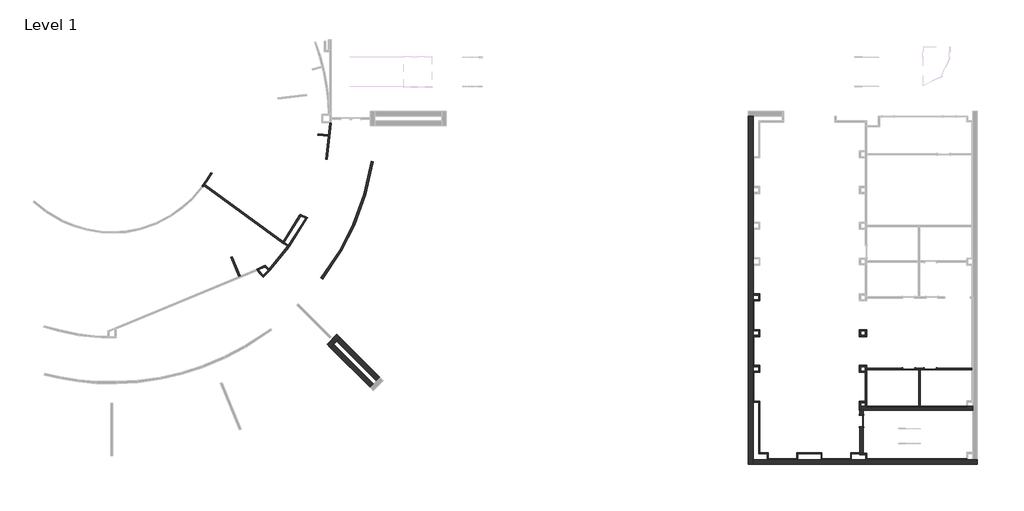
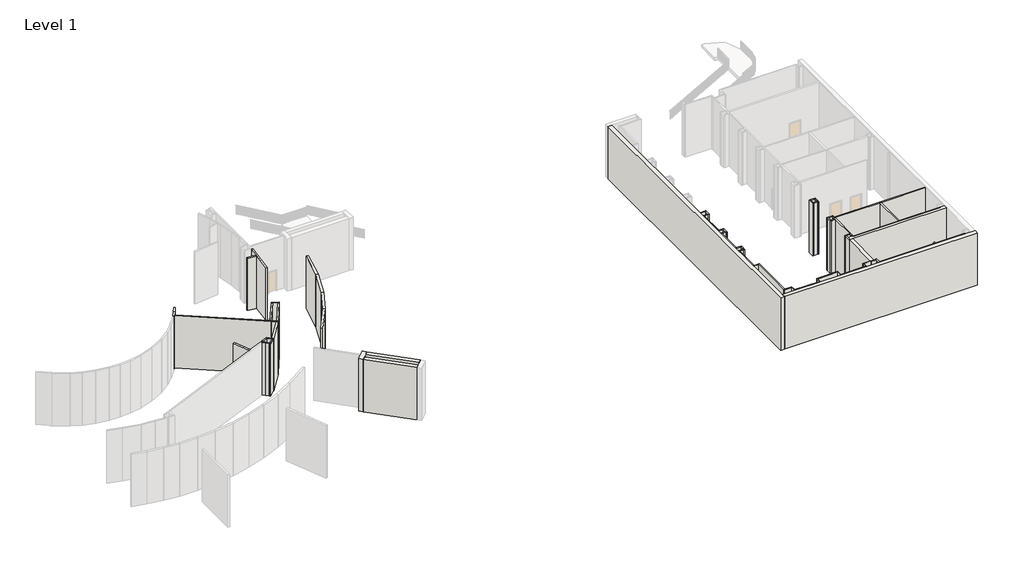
# One storey, part 2 of 10: 67 walls, 3 doors.
"""IFC4 building model written with IfcOpenShell, lengths in millimetres."""

from ifc_helpers import new_model, si_unit, origin, origin_with_axes, place, context, project, spatial, polyline, outline, extrude, faceted_brep, transform, mapped, element, save
from components import door_f5ce0651, door_a2bde941, door_55d8558a

model = new_model("IFC4")

# Units and contexts
model_context = context("Model", 3, world=origin())
ifc_project = project(units=[si_unit("LENGTHUNIT", "METRE", prefix="MILLI")], contexts=[model_context])

# Site, building, storey
site = spatial("IfcSite", under=ifc_project)
building = spatial("IfcBuilding", under=site)
storey = spatial("IfcBuildingStorey", under=building, Name="Level 1", Elevation=0.0)

# Doors
placement = place(None, origin())
door_shape = door_f5ce0651(model_context)
element("IfcDoor", 1, ObjectType="Single-Flush : 36\" x 84\"", at=placement, inside=storey, context=model_context, shape_type="MappedRepresentation", body=[
    mapped(door_shape, transform((92033.6411716, -20234.5763082, 0.0), x_axis=(1.0, 0.0, 0.0), y_axis=(0.0, 1.0, 0.0), z_axis=(0.0, 0.0, 1.0))),
])
door_2_shape = door_a2bde941(model_context)
element("IfcDoor", 2, ObjectType="Single-Flush : 36\" x 84\"", at=placement, inside=storey, context=model_context, shape_type="MappedRepresentation", body=[
    mapped(door_2_shape, transform((88010.1224216, -24669.4798082, 0.0), x_axis=(0.0, 1.0, 0.0), y_axis=(-1.0, 0.0, 0.0), z_axis=(0.0, 0.0, 1.0))),
])
door_3_shape = door_55d8558a(model_context)
element("IfcDoor", 3, ObjectType="Single-Flush : 36\" x 84\"", at=placement, inside=storey, context=model_context, shape_type="MappedRepresentation", body=[
    mapped(door_3_shape, transform((93862.4411716, -20234.5763082, 0.0), x_axis=(-1.0, 0.0, 0.0), y_axis=(0.0, -1.0, 0.0), z_axis=(0.0, 0.0, 1.0))),
])

# Walls
element("IfcWall", 4, ObjectType="N2A/B", at=placement, inside=storey, context=model_context, shape_type="Brep", body=[
    faceted_brep([(93354.4411716, -20172.6638082, 2133.6), (93354.4411716, -20172.6638082, 0.0), (92541.6411716, -20172.6638082, 0.0), (92541.6411716, -20172.6638082, 2133.6), (91525.6411716, -20172.6638082, 2133.6), (91525.6411716, -20172.6638082, 0.0), (88440.3349216, -20172.6638082, 0.0), (88440.3349216, -20172.6638082, 5486.4), (97419.2349216, -20172.6638082, 5486.4), (97419.2349216, -20172.6638082, 0.0), (94370.4411716, -20172.6638082, 0.0), (94370.4411716, -20172.6638082, 2133.6), (92541.6411716, -20296.4888082, 0.0), (92886.1286716, -20296.4888082, 0.0), (93009.9536716, -20296.4888082, 0.0), (93354.4411716, -20296.4888082, 0.0), (93354.4411716, -20296.4888082, 2133.6), (94370.4411716, -20296.4888082, 2133.6), (94370.4411716, -20296.4888082, 0.0), (97419.2349216, -20296.4888082, 0.0), (97419.2349216, -20296.4888082, 5486.4), (93009.9536716, -20296.4888082, 5486.4), (92886.1286716, -20296.4888082, 5486.4), (88448.2724216, -20296.4888082, 5486.4), (88440.3349216, -20296.4888082, 5486.4), (88440.3349216, -20296.4888082, 0.0), (88448.2724216, -20296.4888082, 0.0), (91525.6411716, -20296.4888082, 0.0), (91525.6411716, -20296.4888082, 2133.6), (92541.6411716, -20296.4888082, 2133.6)], [[[0, 1, 2, 3, 4, 5, 6, 7, 8, 9, 10, 11]], [[12, 13, 14, 15, 16, 17, 18, 19, 20, 21, 22, 23, 24, 25, 26, 27, 28, 29]], [[2, 1, 15, 14, 13, 12]], [[27, 26, 25, 6, 5]], [[10, 9, 19, 18]], [[8, 7, 24, 23, 22, 21, 20]], [[7, 6, 25, 24]], [[9, 8, 20, 19]], [[3, 2, 12, 29]], [[4, 3, 29, 28]], [[5, 4, 28, 27]], [[16, 15, 1, 0]], [[17, 16, 0, 11]], [[18, 17, 11, 10]]]),
])
element("IfcWall", 5, ObjectType="N2A/B", at=placement, inside=storey, context=model_context, shape_type="Brep", body=[
    faceted_brep([(88324.4474216, -20296.4888082, 0.0), (88324.4474216, -20431.4263082, 0.0), (88324.4474216, -20539.3763082, 0.0), (88324.4474216, -22999.2393082, 0.0), (88324.4474216, -23107.1893082, 0.0), (88324.4474216, -23421.7048082, 0.0), (88324.4474216, -23421.7048082, 5486.4), (88324.4474216, -23107.1893082, 5486.4), (88324.4474216, -22999.2393082, 5486.4), (88324.4474216, -20539.3763082, 5486.4), (88324.4474216, -20431.4263082, 5486.4), (88324.4474216, -20296.4888082, 5486.4), (88448.2724216, -20296.4888082, 0.0), (88448.2724216, -20296.4888082, 5486.4), (88448.2724216, -23421.7048082, 5486.4), (88448.2724216, -23421.7048082, 0.0), (88332.3849216, -20296.4888082, 0.0), (88440.3349216, -20296.4888082, 0.0), (88440.3349216, -20296.4888082, 5486.4), (88332.3849216, -20296.4888082, 5486.4)], [[[0, 1, 2, 3, 4, 5, 6, 7, 8, 9, 10, 11]], [[12, 13, 14, 15]], [[5, 4, 3, 2, 1, 0, 16, 17, 12, 15]], [[11, 10, 9, 8, 7, 6, 14, 13, 18, 19]], [[0, 11, 19, 18, 13, 12, 17, 16]], [[6, 5, 15, 14]]]),
])
element("IfcWall", 6, ObjectType="N2A/B", at=placement, inside=storey, context=model_context, shape_type="SweptSolid", body=[
    extrude(outline(polyline([(92886.1286716, -23421.7048082), (92886.1286716, -20296.4888082), (93009.9536716, -20296.4888082), (93009.9536716, -23421.7048082), (92886.1286716, -23421.7048082)])), origin_with_axes(), (0.0, 0.0, 1.0), 5486.4),
])
element("IfcWall", 7, ObjectType="N3A/B", at=placement, inside=storey, context=model_context, shape_type="SweptSolid", body=[
    extrude(outline(polyline([(39228.9428686, -9900.87897), (37654.6102671, -11845.017823), (37533.7057841, -11747.1113031), (39108.0383856, -9802.9724501), (39228.9428686, -9900.87897)])), origin_with_axes(), (0.0, 0.0, 1.0), 5486.4),
])
element("IfcWall", 8, ObjectType="F1A", at=placement, inside=storey, context=model_context, shape_type="SweptSolid", body=[
    extrude(outline(polyline([(88448.2724216, -23436.2463082), (96960.4474216, -23436.2463082), (96960.4474216, -23493.3963082), (88448.2724216, -23493.3963082), (88448.2724216, -23436.2463082)])), origin_with_axes(), (0.0, 0.0, 1.0), 5486.4),
])
element("IfcWall", 9, ObjectType="F1A", at=placement, inside=storey, context=model_context, shape_type="Brep", body=[
    faceted_brep([(87843.4349216, -27394.2013082, 0.0), (87078.2599216, -27394.2013082, 0.0), (87078.2599216, -27394.2013082, 5486.4), (87843.4349216, -27394.2013082, 5486.4), (87843.4349216, -27451.3513082, 0.0), (87843.4349216, -27451.3513082, 5486.4), (87135.4099216, -27451.3513082, 5486.4), (87078.2599216, -27451.3513082, 5486.4), (87078.2599216, -27451.3513082, 0.0), (87135.4099216, -27451.3513082, 0.0), (87843.4349216, -27419.6013082, 0.0), (87843.4349216, -27419.6013082, 5486.4)], [[[0, 1, 2, 3]], [[4, 5, 6, 7, 8, 9]], [[1, 0, 10, 4, 9, 8]], [[3, 2, 7, 6, 5, 11]], [[2, 1, 8, 7]], [[0, 3, 11, 5, 4, 10]]]),
])
element("IfcWall", 10, ObjectType="F1A", at=placement, inside=storey, context=model_context, shape_type="Brep", body=[
    faceted_brep([(87078.2599216, -27451.3513082, 0.0), (87078.2599216, -27892.6763082, 0.0), (87078.2599216, -27949.8263082, 0.0), (87078.2599216, -27949.8263082, 5486.4), (87078.2599216, -27892.6763082, 5486.4), (87078.2599216, -27451.3513082, 5486.4), (87135.4099216, -27451.3513082, 0.0), (87135.4099216, -27451.3513082, 5486.4), (87135.4099216, -27949.8263082, 5486.4), (87135.4099216, -27949.8263082, 0.0)], [[[0, 1, 2, 3, 4, 5]], [[6, 7, 8, 9]], [[2, 1, 0, 6, 9]], [[5, 4, 3, 8, 7]], [[3, 2, 9, 8]], [[0, 5, 7, 6]]]),
])
element("IfcWall", 11, ObjectType="F1A", at=placement, inside=storey, context=model_context, shape_type="Brep", body=[
    faceted_brep([(87078.2599216, -27892.6763082, 0.0), (84620.8099216, -27892.6763082, 0.0), (84563.6599216, -27892.6763082, 0.0), (84563.6599216, -27892.6763082, 5486.4), (84620.8099216, -27892.6763082, 5486.4), (87078.2599216, -27892.6763082, 5486.4), (87078.2599216, -27949.8263082, 0.0), (87078.2599216, -27949.8263082, 5486.4), (84563.6599216, -27949.8263082, 5486.4), (84563.6599216, -27949.8263082, 0.0)], [[[0, 1, 2, 3, 4, 5]], [[6, 7, 8, 9]], [[2, 1, 0, 6, 9]], [[5, 4, 3, 8, 7]], [[3, 2, 9, 8]], [[0, 5, 7, 6]]]),
])
element("IfcWall", 12, ObjectType="F1A", at=placement, inside=storey, context=model_context, shape_type="Brep", body=[
    faceted_brep([(84620.8099216, -27892.6763082, 0.0), (84620.8099216, -27394.2013082, 0.0), (84620.8099216, -27394.2013082, 5486.4), (84620.8099216, -27892.6763082, 5486.4), (84563.6599216, -27892.6763082, 0.0), (84563.6599216, -27892.6763082, 5486.4), (84563.6599216, -27451.3513082, 5486.4), (84563.6599216, -27394.2013082, 5486.4), (84563.6599216, -27394.2013082, 0.0), (84563.6599216, -27451.3513082, 0.0)], [[[0, 1, 2, 3]], [[4, 5, 6, 7, 8, 9]], [[1, 0, 4, 9, 8]], [[3, 2, 7, 6, 5]], [[2, 1, 8, 7]], [[0, 3, 5, 4]]]),
])
element("IfcWall", 13, ObjectType="F1A", at=placement, inside=storey, context=model_context, shape_type="Brep", body=[
    faceted_brep([(84563.6599216, -27394.2013082, 0.0), (82506.2599216, -27394.2013082, 0.0), (82506.2599216, -27394.2013082, 5486.4), (84563.6599216, -27394.2013082, 5486.4), (84563.6599216, -27451.3513082, 0.0), (84563.6599216, -27451.3513082, 5486.4), (82563.4099216, -27451.3513082, 5486.4), (82506.2599216, -27451.3513082, 5486.4), (82506.2599216, -27451.3513082, 0.0), (82563.4099216, -27451.3513082, 0.0)], [[[0, 1, 2, 3]], [[4, 5, 6, 7, 8, 9]], [[1, 0, 4, 9, 8]], [[3, 2, 7, 6, 5]], [[2, 1, 8, 7]], [[0, 3, 5, 4]]]),
])
element("IfcWall", 14, ObjectType="F1A", at=placement, inside=storey, context=model_context, shape_type="Brep", body=[
    faceted_brep([(82506.2599216, -27451.3513082, 0.0), (82506.2599216, -27892.6763082, 0.0), (82506.2599216, -27949.8263082, 0.0), (82506.2599216, -27949.8263082, 5486.4), (82506.2599216, -27892.6763082, 5486.4), (82506.2599216, -27451.3513082, 5486.4), (82563.4099216, -27451.3513082, 0.0), (82563.4099216, -27451.3513082, 5486.4), (82563.4099216, -27949.8263082, 5486.4), (82563.4099216, -27949.8263082, 0.0)], [[[0, 1, 2, 3, 4, 5]], [[6, 7, 8, 9]], [[2, 1, 0, 6, 9]], [[5, 4, 3, 8, 7]], [[3, 2, 9, 8]], [[0, 5, 7, 6]]]),
])
element("IfcWall", 15, ObjectType="F1A", at=placement, inside=storey, context=model_context, shape_type="SweptSolid", body=[
    extrude(outline(polyline([(80048.8099216, -27892.6763082), (82506.2599216, -27892.6763082), (82506.2599216, -27949.8263082), (80048.8099216, -27949.8263082), (80048.8099216, -27892.6763082)])), origin_with_axes(), (0.0, 0.0, 1.0), 5486.4),
])
element("IfcWall", 16, ObjectType="F1A", at=placement, inside=storey, context=model_context, shape_type="Brep", body=[
    faceted_brep([(80048.8099216, -27949.8263082, 0.0), (80048.8099216, -27892.6763082, 0.0), (80048.8099216, -27394.2013082, 0.0), (80048.8099216, -27394.2013082, 5486.4), (80048.8099216, -27892.6763082, 5486.4), (80048.8099216, -27949.8263082, 5486.4), (79991.6599216, -27949.8263082, 0.0), (79991.6599216, -27949.8263082, 5486.4), (79991.6599216, -27451.3513082, 5486.4), (79991.6599216, -27394.2013082, 5486.4), (79991.6599216, -27394.2013082, 0.0), (79991.6599216, -27451.3513082, 0.0)], [[[0, 1, 2, 3, 4, 5]], [[6, 7, 8, 9, 10, 11]], [[2, 1, 0, 6, 11, 10]], [[5, 4, 3, 9, 8, 7]], [[3, 2, 10, 9]], [[0, 5, 7, 6]]]),
])
element("IfcWall", 17, ObjectType="F1A", at=placement, inside=storey, context=model_context, shape_type="Brep", body=[
    faceted_brep([(79991.6599216, -27394.2013082, 0.0), (79359.8349216, -27394.2013082, 0.0), (79251.8849216, -27394.2013082, 0.0), (79251.8849216, -27394.2013082, 5486.4), (79359.8349216, -27394.2013082, 5486.4), (79991.6599216, -27394.2013082, 5486.4), (79991.6599216, -27451.3513082, 0.0), (79991.6599216, -27451.3513082, 5486.4), (79251.8849216, -27451.3513082, 5486.4), (79251.8849216, -27451.3513082, 0.0)], [[[0, 1, 2, 3, 4, 5]], [[6, 7, 8, 9]], [[2, 1, 0, 6, 9]], [[5, 4, 3, 8, 7]], [[3, 2, 9, 8]], [[0, 5, 7, 6]]]),
])
element("IfcWall", 18, ObjectType="F1A", at=placement, inside=storey, context=model_context, shape_type="Brep", body=[
    faceted_brep([(78794.6849216, -20431.4263082, 0.0), (78794.6849216, -22982.5388082, 0.0), (78794.6849216, -22982.5388082, 5486.4), (78794.6849216, -20431.4263082, 5486.4), (78851.8349216, -20431.4263082, 0.0), (78851.8349216, -20431.4263082, 5486.4), (78851.8349216, -20539.3763082, 5486.4), (78851.8349216, -22982.5388082, 5486.4), (78851.8349216, -22982.5388082, 0.0), (78851.8349216, -20539.3763082, 0.0)], [[[0, 1, 2, 3]], [[4, 5, 6, 7, 8, 9]], [[1, 0, 4, 9, 8]], [[3, 2, 7, 6, 5]], [[0, 3, 5, 4]], [[2, 1, 8, 7]]]),
])
element("IfcWall", 19, ObjectType="F1A", at=placement, inside=storey, context=model_context, shape_type="Brep", body=[
    faceted_brep([(78794.6849216, -17491.3763082, 0.0), (78794.6849216, -20037.7263082, 0.0), (78794.6849216, -20037.7263082, 5486.4), (78794.6849216, -17491.3763082, 5486.4), (78851.8349216, -17491.3763082, 0.0), (78851.8349216, -17491.3763082, 5486.4), (78851.8349216, -19929.7763082, 5486.4), (78851.8349216, -20037.7263082, 5486.4), (78851.8349216, -20037.7263082, 0.0), (78851.8349216, -19929.7763082, 0.0)], [[[0, 1, 2, 3]], [[4, 5, 6, 7, 8, 9]], [[1, 0, 4, 9, 8]], [[3, 2, 7, 6, 5]], [[2, 1, 8, 7]], [[0, 3, 5, 4]]]),
])
element("IfcWall", 20, ObjectType="F1A", at=placement, inside=storey, context=model_context, shape_type="Brep", body=[
    faceted_brep([(78794.6849216, -14335.4263082, 0.0), (78794.6849216, -16881.7763082, 0.0), (78794.6849216, -16881.7763082, 5486.4), (78794.6849216, -14335.4263082, 5486.4), (78851.8349216, -14335.4263082, 0.0), (78851.8349216, -14335.4263082, 5486.4), (78851.8349216, -14443.3763082, 5486.4), (78851.8349216, -16881.7763082, 5486.4), (78851.8349216, -16881.7763082, 0.0), (78851.8349216, -14443.3763082, 0.0)], [[[0, 1, 2, 3]], [[4, 5, 6, 7, 8, 9]], [[1, 0, 4, 9, 8]], [[3, 2, 7, 6, 5]], [[0, 3, 5, 4]], [[2, 1, 8, 7]]]),
])
element("IfcWall", 21, ObjectType="F1A", at=placement, inside=storey, context=model_context, shape_type="SweptSolid", body=[
    extrude(outline(polyline([(88465.7344309, -27892.6763082), (96960.4474216, -27892.6763082), (96960.4474216, -27949.8263082), (88465.7344309, -27949.8263082), (88465.7344309, -27892.6763082)])), origin_with_axes(), (0.0, 0.0, 1.0), 5486.4),
])
element("IfcWall", 22, ObjectType="F1B", at=placement, inside=storey, context=model_context, shape_type="Brep", body=[
    faceted_brep([(79251.8849216, -22982.5388082, 0.0), (78851.8349216, -22982.5388082, 0.0), (78794.6849216, -22982.5388082, 0.0), (78794.6849216, -22982.5388082, 5486.4), (78851.8349216, -22982.5388082, 5486.4), (79251.8849216, -22982.5388082, 5486.4), (79251.8849216, -23061.9138082, 0.0), (79251.8849216, -23061.9138082, 5486.4), (78794.6849216, -23061.9138082, 5486.4), (78794.6849216, -23061.9138082, 0.0)], [[[0, 1, 2, 3, 4, 5]], [[6, 7, 8, 9]], [[2, 1, 0, 6, 9]], [[5, 4, 3, 8, 7]], [[3, 2, 9, 8]], [[0, 5, 7, 6]]]),
])
element("IfcWall", 23, ObjectType="F1C", at=placement, inside=storey, context=model_context, shape_type="Brep", body=[
    faceted_brep([(87938.6849216, -17491.3763082, 0.0), (87938.6849216, -17383.4263082, 0.0), (87938.6849216, -16989.7263082, 0.0), (87938.6849216, -16881.7763082, 0.0), (87938.6849216, -16881.7763082, 5486.4), (87938.6849216, -16989.7263082, 5486.4), (87938.6849216, -17383.4263082, 5486.4), (87938.6849216, -17491.3763082, 5486.4), (87830.7349216, -17491.3763082, 0.0), (87830.7349216, -17491.3763082, 5486.4), (87830.7349216, -16881.7763082, 5486.4), (87830.7349216, -16881.7763082, 0.0)], [[[0, 1, 2, 3, 4, 5, 6, 7]], [[8, 9, 10, 11]], [[3, 2, 1, 0, 8, 11]], [[7, 6, 5, 4, 10, 9]], [[4, 3, 11, 10]], [[0, 7, 9, 8]]]),
])
element("IfcWall", 24, ObjectType="F1C", at=placement, inside=storey, context=model_context, shape_type="Brep", body=[
    faceted_brep([(87938.6849216, -16989.7263082, 0.0), (88332.3849216, -16989.7263082, 0.0), (88440.3349216, -16989.7263082, 0.0), (88440.3349216, -16989.7263082, 5486.4), (88332.3849216, -16989.7263082, 5486.4), (87938.6849216, -16989.7263082, 5486.4), (87938.6849216, -16881.7763082, 0.0), (87938.6849216, -16881.7763082, 5486.4), (88440.3349216, -16881.7763082, 5486.4), (88440.3349216, -16881.7763082, 0.0)], [[[0, 1, 2, 3, 4, 5]], [[6, 7, 8, 9]], [[2, 1, 0, 6, 9]], [[5, 4, 3, 8, 7]], [[3, 2, 9, 8]], [[0, 5, 7, 6]]]),
])
element("IfcWall", 25, ObjectType="F1C", at=placement, inside=storey, context=model_context, shape_type="Brep", body=[
    faceted_brep([(88332.3849216, -16989.7263082, 0.0), (88332.3849216, -17383.4263082, 0.0), (88332.3849216, -17491.3763082, 0.0), (88332.3849216, -17491.3763082, 5486.4), (88332.3849216, -17383.4263082, 5486.4), (88332.3849216, -16989.7263082, 5486.4), (88440.3349216, -16989.7263082, 0.0), (88440.3349216, -16989.7263082, 5486.4), (88440.3349216, -17491.3763082, 5486.4), (88440.3349216, -17491.3763082, 0.0)], [[[0, 1, 2, 3, 4, 5]], [[6, 7, 8, 9]], [[2, 1, 0, 6, 9]], [[5, 4, 3, 8, 7]], [[3, 2, 9, 8]], [[0, 5, 7, 6]]]),
])
element("IfcWall", 26, ObjectType="F1C", at=placement, inside=storey, context=model_context, shape_type="SweptSolid", body=[
    extrude(outline(polyline([(87938.6849216, -17383.4263082), (88332.3849216, -17383.4263082), (88332.3849216, -17491.3763082), (87938.6849216, -17491.3763082), (87938.6849216, -17383.4263082)])), origin_with_axes(), (0.0, 0.0, 1.0), 5486.4),
])
element("IfcWall", 27, ObjectType="F1C", at=placement, inside=storey, context=model_context, shape_type="Brep", body=[
    faceted_brep([(79359.8349216, -27394.2013082, 0.0), (79359.8349216, -22982.5388082, 0.0), (79359.8349216, -22982.5388082, 5486.4), (79359.8349216, -27394.2013082, 5486.4), (79251.8849216, -27394.2013082, 0.0), (79251.8849216, -27394.2013082, 5486.4), (79251.8849216, -23061.9138082, 5486.4), (79251.8849216, -22982.5388082, 5486.4), (79251.8849216, -22982.5388082, 0.0), (79251.8849216, -23061.9138082, 0.0)], [[[0, 1, 2, 3]], [[4, 5, 6, 7, 8, 9]], [[1, 0, 4, 9, 8]], [[3, 2, 7, 6, 5]], [[2, 1, 8, 7]], [[0, 3, 5, 4]]]),
])
element("IfcWall", 28, ObjectType="F1C", at=placement, inside=storey, context=model_context, shape_type="Brep", body=[
    faceted_brep([(78851.8349216, -20037.7263082, 0.0), (79251.8849216, -20037.7263082, 0.0), (79359.8349216, -20037.7263082, 0.0), (79359.8349216, -20037.7263082, 5486.4), (79251.8849216, -20037.7263082, 5486.4), (78851.8349216, -20037.7263082, 5486.4), (78851.8349216, -19929.7763082, 0.0), (78851.8349216, -19929.7763082, 5486.4), (79359.8349216, -19929.7763082, 5486.4), (79359.8349216, -19929.7763082, 0.0)], [[[0, 1, 2, 3, 4, 5]], [[6, 7, 8, 9]], [[2, 1, 0, 6, 9]], [[5, 4, 3, 8, 7]], [[3, 2, 9, 8]], [[0, 5, 7, 6]]]),
])
element("IfcWall", 29, ObjectType="F1C", at=placement, inside=storey, context=model_context, shape_type="Brep", body=[
    faceted_brep([(79251.8849216, -20037.7263082, 0.0), (79251.8849216, -20431.4263082, 0.0), (79251.8849216, -20539.3763082, 0.0), (79251.8849216, -20539.3763082, 5486.4), (79251.8849216, -20431.4263082, 5486.4), (79251.8849216, -20037.7263082, 5486.4), (79359.8349216, -20037.7263082, 0.0), (79359.8349216, -20037.7263082, 5486.4), (79359.8349216, -20539.3763082, 5486.4), (79359.8349216, -20539.3763082, 0.0)], [[[0, 1, 2, 3, 4, 5]], [[6, 7, 8, 9]], [[2, 1, 0, 6, 9]], [[5, 4, 3, 8, 7]], [[3, 2, 9, 8]], [[0, 5, 7, 6]]]),
])
element("IfcWall", 30, ObjectType="F1C", at=placement, inside=storey, context=model_context, shape_type="SweptSolid", body=[
    extrude(outline(polyline([(78851.8349216, -20431.4263082), (79251.8849216, -20431.4263082), (79251.8849216, -20539.3763082), (78851.8349216, -20539.3763082), (78851.8349216, -20431.4263082)])), origin_with_axes(), (0.0, 0.0, 1.0), 5486.4),
])
element("IfcWall", 31, ObjectType="F1C", at=placement, inside=storey, context=model_context, shape_type="Brep", body=[
    faceted_brep([(78794.6849216, -16989.7263082, 0.0), (79251.8849216, -16989.7263082, 0.0), (79359.8349216, -16989.7263082, 0.0), (79359.8349216, -16989.7263082, 5486.4), (79251.8849216, -16989.7263082, 5486.4), (78794.6849216, -16989.7263082, 5486.4), (78794.6849216, -16881.7763082, 0.0), (78794.6849216, -16881.7763082, 5486.4), (78851.8349216, -16881.7763082, 5486.4), (79359.8349216, -16881.7763082, 5486.4), (79359.8349216, -16881.7763082, 0.0), (78851.8349216, -16881.7763082, 0.0)], [[[0, 1, 2, 3, 4, 5]], [[6, 7, 8, 9, 10, 11]], [[2, 1, 0, 6, 11, 10]], [[5, 4, 3, 9, 8, 7]], [[3, 2, 10, 9]], [[0, 5, 7, 6]]]),
])
element("IfcWall", 32, ObjectType="F1C", at=placement, inside=storey, context=model_context, shape_type="Brep", body=[
    faceted_brep([(79251.8849216, -16989.7263082, 0.0), (79251.8849216, -17383.4263082, 0.0), (79251.8849216, -17491.3763082, 0.0), (79251.8849216, -17491.3763082, 5486.4), (79251.8849216, -17383.4263082, 5486.4), (79251.8849216, -16989.7263082, 5486.4), (79359.8349216, -16989.7263082, 0.0), (79359.8349216, -16989.7263082, 5486.4), (79359.8349216, -17491.3763082, 5486.4), (79359.8349216, -17491.3763082, 0.0)], [[[0, 1, 2, 3, 4, 5]], [[6, 7, 8, 9]], [[2, 1, 0, 6, 9]], [[5, 4, 3, 8, 7]], [[3, 2, 9, 8]], [[0, 5, 7, 6]]]),
])
element("IfcWall", 33, ObjectType="F1C", at=placement, inside=storey, context=model_context, shape_type="Brep", body=[
    faceted_brep([(79251.8849216, -17383.4263082, 0.0), (78794.6849216, -17383.4263082, 0.0), (78794.6849216, -17383.4263082, 5486.4), (79251.8849216, -17383.4263082, 5486.4), (79251.8849216, -17491.3763082, 0.0), (79251.8849216, -17491.3763082, 5486.4), (78851.8349216, -17491.3763082, 5486.4), (78794.6849216, -17491.3763082, 5486.4), (78794.6849216, -17491.3763082, 0.0), (78851.8349216, -17491.3763082, 0.0)], [[[0, 1, 2, 3]], [[4, 5, 6, 7, 8, 9]], [[1, 0, 4, 9, 8]], [[3, 2, 7, 6, 5]], [[2, 1, 8, 7]], [[0, 3, 5, 4]]]),
])
element("IfcWall", 34, ObjectType="F1C", at=placement, inside=storey, context=model_context, shape_type="Brep", body=[
    faceted_brep([(78851.8349216, -13941.7263082, 0.0), (79251.8849216, -13941.7263082, 0.0), (79359.8349216, -13941.7263082, 0.0), (79359.8349216, -13941.7263082, 5486.4), (79251.8849216, -13941.7263082, 5486.4), (78851.8349216, -13941.7263082, 5486.4), (78851.8349216, -13833.7763082, 0.0), (78851.8349216, -13833.7763082, 5486.4), (79359.8349216, -13833.7763082, 5486.4), (79359.8349216, -13833.7763082, 0.0)], [[[0, 1, 2, 3, 4, 5]], [[6, 7, 8, 9]], [[2, 1, 0, 6, 9]], [[5, 4, 3, 8, 7]], [[3, 2, 9, 8]], [[0, 5, 7, 6]]]),
])
element("IfcWall", 35, ObjectType="F1C", at=placement, inside=storey, context=model_context, shape_type="Brep", body=[
    faceted_brep([(79251.8849216, -13941.7263082, 0.0), (79251.8849216, -14335.4263082, 0.0), (79251.8849216, -14443.3763082, 0.0), (79251.8849216, -14443.3763082, 5486.4), (79251.8849216, -14335.4263082, 5486.4), (79251.8849216, -13941.7263082, 5486.4), (79359.8349216, -13941.7263082, 0.0), (79359.8349216, -13941.7263082, 5486.4), (79359.8349216, -14443.3763082, 5486.4), (79359.8349216, -14443.3763082, 0.0)], [[[0, 1, 2, 3, 4, 5]], [[6, 7, 8, 9]], [[2, 1, 0, 6, 9]], [[5, 4, 3, 8, 7]], [[3, 2, 9, 8]], [[0, 5, 7, 6]]]),
])
element("IfcWall", 36, ObjectType="F1C", at=placement, inside=storey, context=model_context, shape_type="SweptSolid", body=[
    extrude(outline(polyline([(78851.8349216, -14335.4263082), (79251.8849216, -14335.4263082), (79251.8849216, -14443.3763082), (78851.8349216, -14443.3763082), (78851.8349216, -14335.4263082)])), origin_with_axes(), (0.0, 0.0, 1.0), 5486.4),
])
element("IfcWall", 37, ObjectType="F2A", at=placement, inside=storey, context=model_context, shape_type="Brep", body=[
    faceted_brep([(88440.3349216, -20296.4888082, 0.0), (88440.3349216, -20172.6638082, 0.0), (88440.3349216, -19929.7763082, 0.0), (88440.3349216, -19929.7763082, 5486.4), (88440.3349216, -20172.6638082, 5486.4), (88440.3349216, -20296.4888082, 5486.4), (88332.3849216, -20296.4888082, 0.0), (88332.3849216, -20296.4888082, 5486.4), (88332.3849216, -20037.7263082, 5486.4), (88332.3849216, -19929.7763082, 5486.4), (88332.3849216, -19929.7763082, 0.0), (88332.3849216, -20037.7263082, 0.0)], [[[0, 1, 2, 3, 4, 5]], [[6, 7, 8, 9, 10, 11]], [[2, 1, 0, 6, 11, 10]], [[5, 4, 3, 9, 8, 7]], [[0, 5, 7, 6]], [[3, 2, 10, 9]]]),
])
element("IfcWall", 38, ObjectType="F2A", at=placement, inside=storey, context=model_context, shape_type="Brep", body=[
    faceted_brep([(88332.3849216, -19929.7763082, 0.0), (87830.7349216, -19929.7763082, 0.0), (87830.7349216, -19929.7763082, 5486.4), (88332.3849216, -19929.7763082, 5486.4), (88332.3849216, -20037.7263082, 0.0), (88332.3849216, -20037.7263082, 5486.4), (87938.6849216, -20037.7263082, 5486.4), (87830.7349216, -20037.7263082, 5486.4), (87830.7349216, -20037.7263082, 0.0), (87938.6849216, -20037.7263082, 0.0)], [[[0, 1, 2, 3]], [[4, 5, 6, 7, 8, 9]], [[1, 0, 4, 9, 8]], [[3, 2, 7, 6, 5]], [[2, 1, 8, 7]], [[0, 3, 5, 4]]]),
])
element("IfcWall", 39, ObjectType="F2A", at=placement, inside=storey, context=model_context, shape_type="Brep", body=[
    faceted_brep([(87830.7349216, -20037.7263082, 0.0), (87830.7349216, -20539.3763082, 0.0), (87830.7349216, -20539.3763082, 5486.4), (87830.7349216, -20037.7263082, 5486.4), (87938.6849216, -20037.7263082, 0.0), (87938.6849216, -20037.7263082, 5486.4), (87938.6849216, -20431.4263082, 5486.4), (87938.6849216, -20539.3763082, 5486.4), (87938.6849216, -20539.3763082, 0.0), (87938.6849216, -20431.4263082, 0.0)], [[[0, 1, 2, 3]], [[4, 5, 6, 7, 8, 9]], [[1, 0, 4, 9, 8]], [[3, 2, 7, 6, 5]], [[2, 1, 8, 7]], [[0, 3, 5, 4]]]),
])
element("IfcWall", 40, ObjectType="F2A", at=placement, inside=storey, context=model_context, shape_type="SweptSolid", body=[
    extrude(outline(polyline([(88324.4474216, -20539.3763082), (87938.6849216, -20539.3763082), (87938.6849216, -20431.4263082), (88324.4474216, -20431.4263082), (88324.4474216, -20539.3763082)])), origin_with_axes(), (0.0, 0.0, 1.0), 5486.4),
])
element("IfcWall", 41, ObjectType="F2A", at=placement, inside=storey, context=model_context, shape_type="Brep", body=[
    faceted_brep([(88324.4474216, -22999.2393082, 0.0), (87830.7349216, -22999.2393082, 0.0), (87830.7349216, -22999.2393082, 5486.4), (88324.4474216, -22999.2393082, 5486.4), (88324.4474216, -23107.1893082, 0.0), (88324.4474216, -23107.1893082, 5486.4), (87938.6849216, -23107.1893082, 5486.4), (87830.7349216, -23107.1893082, 5486.4), (87830.7349216, -23107.1893082, 0.0), (87938.6849216, -23107.1893082, 0.0)], [[[0, 1, 2, 3]], [[4, 5, 6, 7, 8, 9]], [[1, 0, 4, 9, 8]], [[3, 2, 7, 6, 5]], [[2, 1, 8, 7]], [[0, 3, 5, 4]]]),
])
element("IfcWall", 42, ObjectType="F2A", at=placement, inside=storey, context=model_context, shape_type="Brep", body=[
    faceted_brep([(87830.7349216, -23107.1893082, 0.0), (87830.7349216, -23755.0798082, 0.0), (87830.7349216, -23755.0798082, 5486.4), (87830.7349216, -23107.1893082, 5486.4), (87938.6849216, -23107.1893082, 0.0), (87938.6849216, -23107.1893082, 5486.4), (87938.6849216, -23421.7048082, 5486.4), (87938.6849216, -23755.0798082, 5486.4), (87938.6849216, -23755.0798082, 0.0), (87938.6849216, -23421.7048082, 0.0), (87843.4349216, -23755.0798082, 0.0), (87843.4349216, -23755.0798082, 5486.4)], [[[0, 1, 2, 3]], [[4, 5, 6, 7, 8, 9]], [[1, 0, 4, 9, 8, 10]], [[3, 2, 11, 7, 6, 5]], [[2, 1, 10, 8, 7, 11]], [[0, 3, 5, 4]]]),
])
element("IfcWall", 43, ObjectType="F2A", at=placement, inside=storey, context=model_context, shape_type="Brep", body=[
    faceted_brep([(88465.7344309, -27956.1763082, 0.0), (88465.7344309, -27949.8263082, 0.0), (88465.7344309, -27892.6763082, 0.0), (88465.7344309, -27419.6013082, 0.0), (88465.7344309, -27419.6013082, 5486.4), (88465.7344309, -27892.6763082, 5486.4), (88465.7344309, -27949.8263082, 5486.4), (88465.7344309, -27956.1763082, 5486.4), (88357.7844309, -27956.1763082, 0.0), (88357.7844309, -27956.1763082, 5486.4), (88357.7844309, -27527.5513082, 5486.4), (88357.7844309, -27419.6013082, 5486.4), (88357.7844309, -27419.6013082, 0.0), (88357.7844309, -27527.5513082, 0.0)], [[[0, 1, 2, 3, 4, 5, 6, 7]], [[8, 9, 10, 11, 12, 13]], [[3, 2, 1, 0, 8, 13, 12]], [[7, 6, 5, 4, 11, 10, 9]], [[4, 3, 12, 11]], [[0, 7, 9, 8]]]),
])
element("IfcWall", 44, ObjectType="F2A", at=placement, inside=storey, context=model_context, shape_type="Brep", body=[
    faceted_brep([(88357.7844309, -27419.6013082, 0.0), (88176.8099216, -27419.6013082, 0.0), (87843.4349216, -27419.6013082, 0.0), (87843.4349216, -27419.6013082, 5486.4), (88176.8099216, -27419.6013082, 5486.4), (88357.7844309, -27419.6013082, 5486.4), (88357.7844309, -27527.5513082, 0.0), (88357.7844309, -27527.5513082, 5486.4), (87843.4349216, -27527.5513082, 5486.4), (87843.4349216, -27527.5513082, 0.0), (87843.4349216, -27451.3513082, 0.0), (87843.4349216, -27451.3513082, 5486.4)], [[[0, 1, 2, 3, 4, 5]], [[6, 7, 8, 9]], [[2, 1, 0, 6, 9, 10]], [[5, 4, 3, 11, 8, 7]], [[3, 2, 10, 9, 8, 11]], [[0, 5, 7, 6]]]),
])
element("IfcWall", 45, ObjectType="F4A", at=placement, inside=storey, context=model_context, shape_type="Brep", body=[
    faceted_brep([(37062.7705683, -12415.0095175, 0.0), (37637.9367742, -11839.8433117, 0.0), (37637.9367742, -11839.8433117, 5486.4), (37062.7705683, -12415.0095175, 5486.4), (36975.2130712, -12327.4520203, 0.0), (36975.2130712, -12327.4520203, 5486.4), (37062.7705683, -12239.8945231, 5486.4), (37462.8217798, -11839.8433117, 5486.4), (37550.379277, -11752.2858145, 5486.4), (37550.379277, -11752.2858145, 0.0), (37462.8217798, -11839.8433117, 0.0), (37062.7705683, -12239.8945231, 0.0)], [[[0, 1, 2, 3]], [[4, 5, 6, 7, 8, 9, 10, 11]], [[1, 0, 4, 11, 10, 9]], [[3, 2, 8, 7, 6, 5]], [[2, 1, 9, 8]], [[0, 3, 5, 4]]]),
])
element("IfcWall", 46, ObjectType="F4A", at=placement, inside=storey, context=model_context, shape_type="Brep", body=[
    faceted_brep([(37550.379277, -11752.2858145, 0.0), (37212.9353757, -11414.8419131, 0.0), (37212.9353757, -11414.8419131, 5486.4), (37550.379277, -11752.2858145, 5486.4), (37462.8217798, -11839.8433117, 0.0), (37462.8217798, -11839.8433117, 5486.4), (37184.4361561, -11561.4576879, 5486.4), (37090.0023534, -11467.0238852, 5486.4), (37090.0023534, -11467.0238852, 0.0), (37184.4361561, -11561.4576879, 0.0)], [[[0, 1, 2, 3]], [[4, 5, 6, 7, 8, 9]], [[1, 0, 4, 9, 8]], [[3, 2, 7, 6, 5]], [[2, 1, 8, 7]], [[0, 3, 5, 4]]]),
])
element("IfcWall", 47, ObjectType="F4A", at=placement, inside=storey, context=model_context, shape_type="SweptSolid", body=[
    extrude(outline(polyline([(36576.8223298, -11684.8558814), (37090.0023534, -11467.0238852), (37184.4361561, -11561.4576879), (36625.2046118, -11798.8373948), (36576.8223298, -11684.8558814)])), origin_with_axes(), (0.0, 0.0, 1.0), 5486.4),
])
element("IfcWall", 48, ObjectType="F4A", at=placement, inside=storey, context=model_context, shape_type="Brep", body=[
    faceted_brep([(36462.8408164, -11733.2381633, 0.0), (36465.7279584, -11740.0398438, 0.0), (36520.31541, -11868.6398208, 0.0), (36523.2025521, -11875.4415012, 0.0), (36523.2025521, -11875.4415012, 5486.4), (36520.31541, -11868.6398208, 5486.4), (36465.7279584, -11740.0398438, 5486.4), (36462.8408164, -11733.2381633, 5486.4), (36576.8223298, -11684.8558814, 0.0), (36576.8223298, -11684.8558814, 5486.4), (36625.2046118, -11798.8373948, 5486.4), (36627.7795026, -11804.9034574, 5486.4), (36756.9344156, -12109.1733648, 5486.4), (36756.9344156, -12109.1733648, 0.0), (36627.7795026, -11804.9034574, 0.0), (36625.2046118, -11798.8373948, 0.0)], [[[0, 1, 2, 3, 4, 5, 6, 7]], [[8, 9, 10, 11, 12, 13, 14, 15]], [[3, 2, 1, 0, 8, 15, 14, 13]], [[7, 6, 5, 4, 12, 11, 10, 9]], [[0, 7, 9, 8]], [[4, 3, 13, 12]]]),
])
element("IfcWall", 49, ObjectType="F4A", at=placement, inside=storey, context=model_context, shape_type="SweptSolid", body=[
    extrude(outline(polyline([(36975.2130712, -12327.4520203), (36756.9344156, -12109.1733648), (36627.7795026, -11804.9034574), (37062.7705683, -12239.8945231), (36975.2130712, -12327.4520203)])), origin_with_axes(), (0.0, 0.0, 1.0), 5486.4),
])
element("IfcWall", 50, ObjectType="F4A", at=placement, inside=storey, context=model_context, shape_type="Brep", body=[
    faceted_brep([(38764.5206543, -9548.4032213, 0.0), (39235.092494, -9890.2936753, 0.0), (39235.092494, -9890.2936753, 5486.4), (38764.5206543, -9548.4032213, 5486.4), (38830.8796611, -9443.5597445, 0.0), (38830.8796611, -9443.5597445, 5486.4), (39195.6043343, -9708.5477306, 5486.4), (39295.9865957, -9781.4797126, 5486.4), (39307.8750029, -9790.117146, 5486.4), (39307.8750029, -9790.117146, 0.0), (39295.9865957, -9781.4797126, 0.0), (39195.6043343, -9708.5477306, 0.0)], [[[0, 1, 2, 3]], [[4, 5, 6, 7, 8, 9, 10, 11]], [[1, 0, 4, 11, 10, 9]], [[2, 1, 9, 8]], [[3, 2, 8, 7, 6, 5]], [[0, 3, 5, 4]]]),
])
element("IfcWall", 51, ObjectType="F4A", at=placement, inside=storey, context=model_context, shape_type="Brep", body=[
    faceted_brep([(40131.1908795, -7157.611304, 0.0), (40244.3393967, -7210.373324, 0.0), (40655.4484449, -7402.0766216, 0.0), (40768.5969621, -7454.8386416, 0.0), (40768.5969621, -7454.8386416, 5486.4), (40655.4484449, -7402.0766216, 5486.4), (40244.3393967, -7210.373324, 5486.4), (40131.1908795, -7157.611304, 5486.4), (40197.9596997, -7052.1203453, 0.0), (40197.9596997, -7052.1203453, 5486.4), (40835.3657823, -7349.347683, 5486.4), (40835.3657823, -7349.347683, 0.0)], [[[0, 1, 2, 3, 4, 5, 6, 7]], [[8, 9, 10, 11]], [[3, 2, 1, 0, 8, 11]], [[7, 6, 5, 4, 10, 9]], [[4, 3, 11, 10]], [[0, 7, 9, 8]]]),
])
element("IfcWall", 52, ObjectType="F4A", at=placement, inside=storey, context=model_context, shape_type="SweptSolid", body=[
    extrude(outline(polyline([(39195.6043343, -9708.5477306), (40655.4484449, -7402.0766216), (40768.5969621, -7454.8386416), (39295.9865957, -9781.4797126), (39195.6043343, -9708.5477306)])), origin_with_axes(), (0.0, 0.0, 1.0), 5486.4),
])
element("IfcWall", 53, ObjectType="F4A", at=placement, inside=storey, context=model_context, shape_type="SweptSolid", body=[
    extrude(outline(polyline([(40244.3393967, -7210.373324), (38835.1334436, -9436.8390089), (38734.7511822, -9363.9070269), (40131.1908795, -7157.611304), (40244.3393967, -7210.373324)])), origin_with_axes(), (0.0, 0.0, 1.0), 5486.4),
])
element("IfcWall", 54, ObjectType="F4A", at=placement, inside=storey, context=model_context, shape_type="Brep", body=[
    faceted_brep([(42701.2849216, 701.7030838, 0.0), (42596.173828, -298.3621692, 0.0), (42583.230591, -421.5088429, 0.0), (42379.9553951, -2355.5431413, 0.0), (42379.9553951, -2355.5431413, 5486.4), (42583.230591, -421.5088429, 5486.4), (42596.173828, -298.3621692, 5486.4), (42701.2849216, 701.7030838, 5486.4), (42825.1099216, 695.2136905, 0.0), (42825.1099216, 695.2136905, 5486.4), (42503.1020688, -2368.4863783, 5486.4), (42503.1020688, -2368.4863783, 0.0)], [[[0, 1, 2, 3, 4, 5, 6, 7]], [[8, 9, 10, 11]], [[3, 2, 1, 0, 8, 11]], [[4, 3, 11, 10]], [[7, 6, 5, 4, 10, 9]], [[0, 7, 9, 8]]]),
])
element("IfcWall", 55, ObjectType="N11C2", at=placement, inside=storey, context=model_context, shape_type="Brep", body=[
    faceted_brep([(38835.1334436, -9436.8390089, 0.0), (38734.7511822, -9363.9070269, 0.0), (32072.5066256, -4523.5030245, 0.0), (32072.5066256, -4523.5030245, 5486.4), (38734.7511822, -9363.9070269, 5486.4), (38835.1334436, -9436.8390089, 5486.4), (38760.2668718, -9555.123957, 0.0), (38760.2668718, -9555.123957, 5486.4), (31990.3930258, -4636.5226987, 5486.4), (31990.3930258, -4636.5226987, 0.0), (38830.8796611, -9443.5597445, 0.0), (38764.5206543, -9548.4032213, 0.0), (38764.5206543, -9548.4032213, 5486.4), (38830.8796611, -9443.5597445, 5486.4)], [[[0, 1, 2, 3, 4, 5]], [[6, 7, 8, 9]], [[2, 1, 0, 10, 11, 6, 9]], [[5, 4, 3, 8, 7, 12, 13]], [[0, 5, 13, 12, 7, 6, 11, 10]], [[3, 2, 9, 8]]]),
])
element("IfcWall", 56, ObjectType="N11C2", at=placement, inside=storey, context=model_context, shape_type="SweptSolid", body=[
    extrude(outline(polyline([(32684.7054732, -3580.6253319), (32336.4626247, -4160.1987596), (32219.8577934, -4083.0197054), (32564.9592013, -3508.6745128), (32684.7054732, -3580.6253319)])), origin_with_axes(), (0.0, 0.0, 1.0), 5486.4),
])
element("IfcWall", 57, ObjectType="N11C2", at=placement, inside=storey, context=model_context, shape_type="Brep", body=[
    faceted_brep([(32219.8577934, -4083.0197054, 0.0), (31805.0512356, -4653.951952, 0.0), (31805.0512356, -4653.951952, 5486.4), (32219.8577934, -4083.0197054, 5486.4), (32336.4626247, -4160.1987596, 0.0), (32336.4626247, -4160.1987596, 5486.4), (32072.5066256, -4523.5030245, 5486.4), (31990.3930258, -4636.5226987, 5486.4), (31915.2034396, -4740.0122857, 5486.4), (31915.2034396, -4740.0122857, 0.0), (31990.3930258, -4636.5226987, 0.0), (32072.5066256, -4523.5030245, 0.0)], [[[0, 1, 2, 3]], [[4, 5, 6, 7, 8, 9, 10, 11]], [[1, 0, 4, 11, 10, 9]], [[3, 2, 8, 7, 6, 5]], [[2, 1, 9, 8]], [[0, 3, 5, 4]]]),
])
element("IfcWall", 58, ObjectType="N13C2", at=placement, inside=storey, context=model_context, shape_type="SweptSolid", body=[
    extrude(outline(polyline([(45603.6780421, -5360.7088556), (46253.7794923, -2544.810108), (46433.2097398, -2586.2348447), (45780.5746441, -5413.1080163), (45603.6780421, -5360.7088556)])), origin_with_axes(), (0.0, 0.0, 1.0), 5486.4),
])
element("IfcWall", 59, ObjectType="N13C2", at=placement, inside=storey, context=model_context, shape_type="SweptSolid", body=[
    extrude(outline(polyline([(44669.3005908, -7927.8898042), (45603.6780421, -5360.7088556), (45780.5746441, -5413.1080163), (44838.4927811, -8001.4566623), (44669.3005908, -7927.8898042)])), origin_with_axes(), (0.0, 0.0, 1.0), 5486.4),
])
element("IfcWall", 60, ObjectType="N13C2", at=placement, inside=storey, context=model_context, shape_type="SweptSolid", body=[
    extrude(outline(polyline([(43544.3407777, -10135.7477518), (44669.3005908, -7927.8898042), (44838.4927811, -8001.4566623), (43703.3062903, -10229.3855948), (43544.3407777, -10135.7477518)])), origin_with_axes(), (0.0, 0.0, 1.0), 5486.4),
])
element("IfcWall", 61, ObjectType="N13C2", at=placement, inside=storey, context=model_context, shape_type="SweptSolid", body=[
    extrude(outline(polyline([(41956.6979277, -12489.5250731), (43544.3407777, -10135.7477518), (43703.3062903, -10229.3855948), (42109.3651967, -12592.5004463), (41956.6979277, -12489.5250731)])), origin_with_axes(), (0.0, 0.0, 1.0), 5486.4),
])
element("IfcWall", 62, ObjectType="N17A", at=placement, inside=storey, context=model_context, shape_type="SweptSolid", body=[
    extrude(outline(polyline([(41712.6306947, -205.4980439), (42596.173828, -298.3621692), (42583.230591, -421.5088429), (41699.6874578, -328.6447176), (41712.6306947, -205.4980439)])), origin_with_axes(), (0.0, 0.0, 1.0), 5486.4),
])
element("IfcWall", 63, ObjectType="N1C", at=placement, inside=storey, context=model_context, shape_type="SweptSolid", body=[
    extrude(outline(polyline([(34416.8163532, -10684.0810436), (35089.1590192, -12309.4611351), (34960.0674596, -12362.8601916), (34287.7247936, -10737.4801001), (34416.8163532, -10684.0810436)])), origin_with_axes(), (0.0, 0.0, 1.0), 5486.4),
])
element("IfcWall", 64, ObjectType="N9A", at=placement, inside=storey, context=model_context, shape_type="Brep", body=[
    faceted_brep([(78381.9349216, 1295.0986918, 0.0), (78381.9349216, -28362.5763082, 0.0), (78381.9349216, -28362.5763082, 5486.4), (78381.9349216, 1295.0986918, 5486.4), (78788.3349216, 1295.0986918, 0.0), (78788.3349216, 1295.0986918, 5486.4), (78788.3349216, -27956.1763082, 5486.4), (78788.3349216, -28362.5763082, 5486.4), (78788.3349216, -28362.5763082, 0.0), (78788.3349216, -27956.1763082, 0.0)], [[[0, 1, 2, 3]], [[4, 5, 6, 7, 8, 9]], [[1, 0, 4, 9, 8]], [[3, 2, 7, 6, 5]], [[2, 1, 8, 7]], [[0, 3, 5, 4]]]),
])
element("IfcWall", 65, ObjectType="N9A", at=placement, inside=storey, context=model_context, shape_type="Brep", body=[
    faceted_brep([(78788.3349216, -28362.5763082, 0.0), (97889.1349216, -28362.5763082, 0.0), (97889.1349216, -28362.5763082, 5486.4), (78788.3349216, -28362.5763082, 5486.4), (78788.3349216, -27956.1763082, 0.0), (78788.3349216, -27956.1763082, 5486.4), (88357.7844309, -27956.1763082, 5486.4), (88465.7344309, -27956.1763082, 5486.4), (96960.4474216, -27956.1763082, 5486.4), (97068.3974216, -27956.1763082, 5486.4), (97482.7349216, -27956.1763082, 5486.4), (97889.1349216, -27956.1763082, 5486.4), (97889.1349216, -27956.1763082, 0.0), (97482.7349216, -27956.1763082, 0.0), (97068.3974216, -27956.1763082, 0.0), (96960.4474216, -27956.1763082, 0.0), (88465.7344309, -27956.1763082, 0.0), (88357.7844309, -27956.1763082, 0.0)], [[[0, 1, 2, 3]], [[4, 5, 6, 7, 8, 9, 10, 11, 12, 13, 14, 15, 16, 17]], [[1, 0, 4, 17, 16, 15, 14, 13, 12]], [[3, 2, 11, 10, 9, 8, 7, 6, 5]], [[2, 1, 12, 11]], [[0, 3, 5, 4]]]),
])
element("IfcWall", 66, ObjectType="N9A", at=placement, inside=storey, context=model_context, shape_type="SweptSolid", body=[
    extrude(outline(polyline([(46692.5061255, -21247.4615541), (43315.9298239, -17870.8852526), (43603.2980198, -17583.5170567), (46979.8743213, -20960.0933582), (46692.5061255, -21247.4615541)])), origin_with_axes(), (0.0, 0.0, 1.0), 5486.4),
])
element("IfcWall", 67, ObjectType="N9A", at=placement, inside=storey, context=model_context, shape_type="SweptSolid", body=[
    extrude(outline(polyline([(43061.0898248, -18125.7252517), (46437.6661264, -21502.3015532), (46150.2979305, -21789.6697491), (42773.721629, -18413.0934476), (43061.0898248, -18125.7252517)])), origin_with_axes(), (0.0, 0.0, 1.0), 5486.4),
])
element("IfcWall", 68, ObjectType="N9A", at=placement, inside=storey, context=model_context, shape_type="Brep", body=[
    faceted_brep([(42773.721629, -18413.0934476, 0.0), (43061.0898248, -18125.7252517, 0.0), (43315.9298239, -17870.8852526, 0.0), (43603.2980198, -17583.5170567, 0.0), (43603.2980198, -17583.5170567, 5486.4), (43315.9298239, -17870.8852526, 5486.4), (43061.0898248, -18125.7252517, 5486.4), (42773.721629, -18413.0934476, 5486.4), (42486.3534331, -18125.7252517, 0.0), (42486.3534331, -18125.7252517, 5486.4), (43315.9298239, -17296.1488608, 5486.4), (43315.9298239, -17296.1488608, 0.0)], [[[0, 1, 2, 3, 4, 5, 6, 7]], [[8, 9, 10, 11]], [[3, 2, 1, 0, 8, 11]], [[7, 6, 5, 4, 10, 9]], [[4, 3, 11, 10]], [[0, 7, 9, 8]]]),
])
element("IfcWall", 69, ObjectType="R9A", at=placement, inside=storey, context=model_context, shape_type="Brep", body=[
    faceted_brep([(87938.6849216, -23755.0798082, 0.0), (88176.8099216, -23755.0798082, 0.0), (97482.7349216, -23755.0798082, 0.0), (97482.7349216, -23755.0798082, 5486.4), (88176.8099216, -23755.0798082, 5486.4), (87938.6849216, -23755.0798082, 5486.4), (87938.6849216, -23421.7048082, 0.0), (87938.6849216, -23421.7048082, 5486.4), (88324.4474216, -23421.7048082, 5486.4), (88448.2724216, -23421.7048082, 5486.4), (92886.1286716, -23421.7048082, 5486.4), (93009.9536716, -23421.7048082, 5486.4), (97482.7349216, -23421.7048082, 5486.4), (97482.7349216, -23421.7048082, 0.0), (93009.9536716, -23421.7048082, 0.0), (92886.1286716, -23421.7048082, 0.0), (88448.2724216, -23421.7048082, 0.0), (88324.4474216, -23421.7048082, 0.0)], [[[0, 1, 2, 3, 4, 5]], [[6, 7, 8, 9, 10, 11, 12, 13, 14, 15, 16, 17]], [[2, 1, 0, 6, 17, 16, 15, 14, 13]], [[5, 4, 3, 12, 11, 10, 9, 8, 7]], [[0, 5, 7, 6]], [[3, 2, 13, 12]]]),
])
element("IfcWall", 70, ObjectType="R9A", at=placement, inside=storey, context=model_context, shape_type="Brep", body=[
    faceted_brep([(88176.8099216, -24161.4798082, 2133.6), (88176.8099216, -24161.4798082, 0.0), (88176.8099216, -23755.0798082, 0.0), (88176.8099216, -23755.0798082, 5486.4), (88176.8099216, -27419.6013082, 5486.4), (88176.8099216, -27419.6013082, 0.0), (88176.8099216, -25177.4798082, 0.0), (88176.8099216, -25177.4798082, 2133.6), (87843.4349216, -23755.0798082, 0.0), (87843.4349216, -24161.4798082, 0.0), (87843.4349216, -24161.4798082, 2133.6), (87843.4349216, -25177.4798082, 2133.6), (87843.4349216, -25177.4798082, 0.0), (87843.4349216, -27394.2013082, 0.0), (87843.4349216, -27419.6013082, 0.0), (87843.4349216, -27419.6013082, 5486.4), (87843.4349216, -27394.2013082, 5486.4), (87843.4349216, -23755.0798082, 5486.4), (87938.6849216, -23755.0798082, 0.0), (87938.6849216, -23755.0798082, 5486.4)], [[[0, 1, 2, 3, 4, 5, 6, 7]], [[8, 9, 10, 11, 12, 13, 14, 15, 16, 17]], [[2, 1, 9, 8, 18]], [[6, 5, 14, 13, 12]], [[4, 3, 19, 17, 16, 15]], [[3, 2, 18, 8, 17, 19]], [[5, 4, 15, 14]], [[10, 9, 1, 0]], [[11, 10, 0, 7]], [[12, 11, 7, 6]]]),
])

save(model, "model.ifc")
